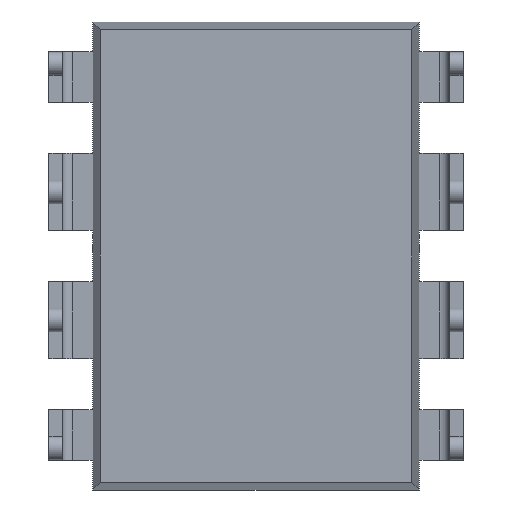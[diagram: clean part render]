
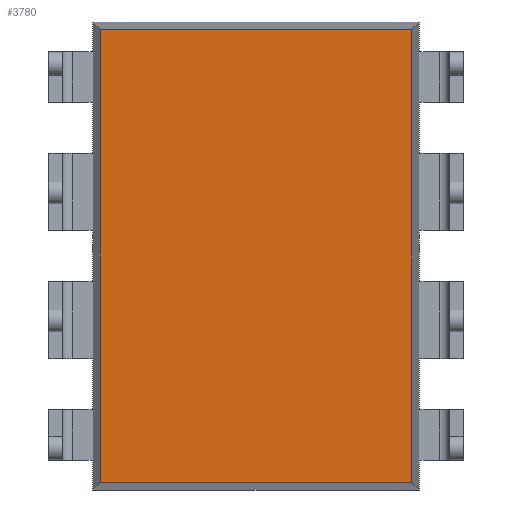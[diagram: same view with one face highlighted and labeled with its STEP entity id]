
A CAD part, front view. The second image highlights one B-rep face of the part: STEP entity #3780.
In plain terms, the highlighted planar face has unit normal (0, -1, 0).
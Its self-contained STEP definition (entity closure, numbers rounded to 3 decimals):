
#275 = CARTESIAN_POINT ( 'NONE',  ( -3.082, 1.02, 4.48 ) ) ;
#372 = LINE ( 'NONE', #1420, #2626 ) ;
#482 = VECTOR ( 'NONE', #2737, 1000. ) ;
#485 = VERTEX_POINT ( 'NONE', #3355 ) ;
#539 = EDGE_CURVE ( 'NONE', #485, #3052, #3391, .T. ) ;
#712 = ORIENTED_EDGE ( 'NONE', *, *, #539, .T. ) ;
#733 = DIRECTION ( 'NONE',  ( 0., 0., -1. ) ) ;
#752 = VECTOR ( 'NONE', #2258, 1000. ) ;
#819 = ORIENTED_EDGE ( 'NONE', *, *, #1491, .T. ) ;
#861 = FACE_OUTER_BOUND ( 'NONE', #2378, .T. ) ;
#918 = CARTESIAN_POINT ( 'NONE',  ( 0., 1.02, 0. ) ) ;
#1117 = EDGE_CURVE ( 'NONE', #3052, #3525, #372, .T. ) ;
#1144 = CARTESIAN_POINT ( 'NONE',  ( -3.237, 1.02, 4.48 ) ) ;
#1159 = DIRECTION ( 'NONE',  ( 0., 0., 1. ) ) ;
#1359 = VECTOR ( 'NONE', #2462, 1000. ) ;
#1366 = CARTESIAN_POINT ( 'NONE',  ( -3.082, 1.02, -4.48 ) ) ;
#1420 = CARTESIAN_POINT ( 'NONE',  ( -3.082, 1.02, -4.635 ) ) ;
#1491 = EDGE_CURVE ( 'NONE', #3525, #3895, #1631, .T. ) ;
#1494 = ORIENTED_EDGE ( 'NONE', *, *, #3841, .T. ) ;
#1503 = LINE ( 'NONE', #2770, #1359 ) ;
#1605 = CARTESIAN_POINT ( 'NONE',  ( 3.082, 1.02, -4.48 ) ) ;
#1631 = LINE ( 'NONE', #2613, #752 ) ;
#2062 = ORIENTED_EDGE ( 'NONE', *, *, #1117, .T. ) ;
#2258 = DIRECTION ( 'NONE',  ( 1., 0., 0. ) ) ;
#2378 = EDGE_LOOP ( 'NONE', ( #2062, #819, #1494, #712 ) ) ;
#2427 = PLANE ( 'NONE',  #2954 ) ;
#2462 = DIRECTION ( 'NONE',  ( 0., 0., 1. ) ) ;
#2613 = CARTESIAN_POINT ( 'NONE',  ( 3.237, 1.02, -4.48 ) ) ;
#2626 = VECTOR ( 'NONE', #733, 1000. ) ;
#2737 = DIRECTION ( 'NONE',  ( -1., 0., 0. ) ) ;
#2753 = DIRECTION ( 'NONE',  ( 0., 1., 0. ) ) ;
#2770 = CARTESIAN_POINT ( 'NONE',  ( 3.082, 1.02, 4.635 ) ) ;
#2954 = AXIS2_PLACEMENT_3D ( 'NONE', #918, #2753, #1159 ) ;
#3052 = VERTEX_POINT ( 'NONE', #275 ) ;
#3355 = CARTESIAN_POINT ( 'NONE',  ( 3.082, 1.02, 4.48 ) ) ;
#3391 = LINE ( 'NONE', #1144, #482 ) ;
#3525 = VERTEX_POINT ( 'NONE', #1366 ) ;
#3780 = ADVANCED_FACE ( 'NONE', ( #861 ), #2427, .F. ) ;
#3841 = EDGE_CURVE ( 'NONE', #3895, #485, #1503, .T. ) ;
#3895 = VERTEX_POINT ( 'NONE', #1605 ) ;
